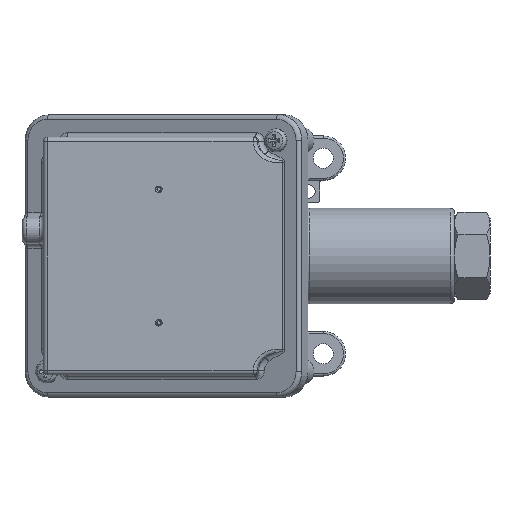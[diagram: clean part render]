
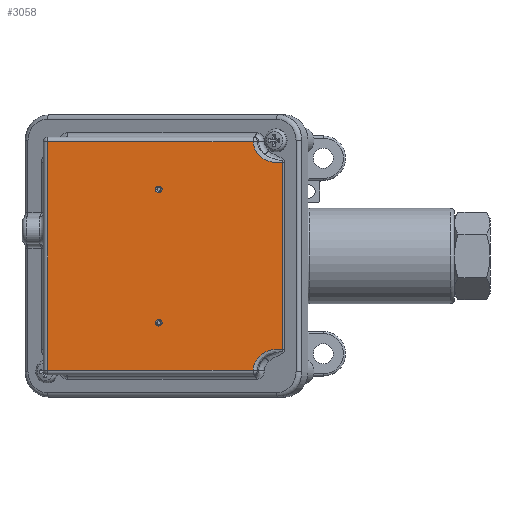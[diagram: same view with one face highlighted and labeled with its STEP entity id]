
A CAD part, left-side view. The second image highlights one B-rep face of the part: STEP entity #3058.
In plain terms, the highlighted planar face has unit normal (-1, 0.005, 0).
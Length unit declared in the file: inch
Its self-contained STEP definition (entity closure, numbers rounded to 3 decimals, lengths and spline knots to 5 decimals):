
#53 = CARTESIAN_POINT ( 'NONE',  ( -2.32276, 0.19397, -1.32146 ) ) ;
#177 = EDGE_LOOP ( 'NONE', ( #181 ) ) ;
#181 = ORIENTED_EDGE ( 'NONE', *, *, #470, .F. ) ;
#206 = ORIENTED_EDGE ( 'NONE', *, *, #7942, .T. ) ;
#233 = CARTESIAN_POINT ( 'NONE',  ( -2.32057, 0.61286, 1.61 ) ) ;
#389 = CARTESIAN_POINT ( 'NONE',  ( -2.32276, 0.19397, -1.32146 ) ) ;
#395 = CARTESIAN_POINT ( 'NONE',  ( -2.32282, 0.18143, 1.61 ) ) ;
#400 = AXIS2_PLACEMENT_3D ( 'NONE', #7304, #4928, #4224 ) ;
#421 = VERTEX_POINT ( 'NONE', #53 ) ;
#470 = EDGE_CURVE ( 'NONE', #3485, #3485, #531, .T. ) ;
#531 = CIRCLE ( 'NONE', #400, 0.0465 ) ;
#968 = CARTESIAN_POINT ( 'NONE',  ( -2.32276, 0.19397, 1.6725 ) ) ;
#999 = DIRECTION ( 'NONE',  ( -0.005, -1., 0. ) ) ;
#1028 = DIRECTION ( 'NONE',  ( -1., 0.005, 0. ) ) ;
#1033 = CARTESIAN_POINT ( 'NONE',  ( -2.32159, 0.41746, -1.27099 ) ) ;
#1078 = ORIENTED_EDGE ( 'NONE', *, *, #7199, .T. ) ;
#1175 = VECTOR ( 'NONE', #3472, 39.37008 ) ;
#1369 = VERTEX_POINT ( 'NONE', #7579 ) ;
#1377 = ORIENTED_EDGE ( 'NONE', *, *, #5631, .T. ) ;
#1580 = CARTESIAN_POINT ( 'NONE',  ( -2.32063, 0.60182, -1.39798 ) ) ;
#1942 = CARTESIAN_POINT ( 'NONE',  ( -2.31389, 1.8919, 0.937 ) ) ;
#2568 = VERTEX_POINT ( 'NONE', #5200 ) ;
#2780 = CARTESIAN_POINT ( 'NONE',  ( -2.32057, 0.61286, -1.61 ) ) ;
#2795 = FACE_BOUND ( 'NONE', #177, .T. ) ;
#2948 = VERTEX_POINT ( 'NONE', #7462 ) ;
#3058 = ADVANCED_FACE ( 'NONE', ( #7179, #2795, #7697 ), #7664, .F. ) ;
#3220 =( BOUNDED_CURVE ( )  B_SPLINE_CURVE ( 3, ( #5806, #4098, #4023, #5968 ),
 .UNSPECIFIED., .F., .T. ) 
 B_SPLINE_CURVE_WITH_KNOTS ( ( 4, 4 ),
 ( 1.33072, 3.09357 ),
 .UNSPECIFIED. ) 
 CURVE ( )  GEOMETRIC_REPRESENTATION_ITEM ( )  RATIONAL_B_SPLINE_CURVE ( ( 1., 0.757, 0.757, 1. ) ) 
 REPRESENTATION_ITEM ( '' )  );
#3305 = DIRECTION ( 'NONE',  ( 0.005, 1., 0. ) ) ;
#3383 = VECTOR ( 'NONE', #7167, 39.37008 ) ;
#3440 = VERTEX_POINT ( 'NONE', #233 ) ;
#3472 = DIRECTION ( 'NONE',  ( 0., 0., -1. ) ) ;
#3485 = VERTEX_POINT ( 'NONE', #7208 ) ;
#3486 = VECTOR ( 'NONE', #4786, 39.37008 ) ;
#3498 = EDGE_CURVE ( 'NONE', #5596, #5596, #4431, .T. ) ;
#3716 = EDGE_LOOP ( 'NONE', ( #4267, #5846, #1078, #6508, #1377, #206 ) ) ;
#3970 = DIRECTION ( 'NONE',  ( 1., -0.005, 0. ) ) ;
#4023 = CARTESIAN_POINT ( 'NONE',  ( -2.32063, 0.60182, 1.39798 ) ) ;
#4098 = CARTESIAN_POINT ( 'NONE',  ( -2.32159, 0.41746, 1.27099 ) ) ;
#4224 = DIRECTION ( 'NONE',  ( -0.005, -1., 0. ) ) ;
#4267 = ORIENTED_EDGE ( 'NONE', *, *, #5252, .T. ) ;
#4389 = VECTOR ( 'NONE', #4467, 39.37008 ) ;
#4431 = CIRCLE ( 'NONE', #6372, 0.0465 ) ;
#4467 = DIRECTION ( 'NONE',  ( -0.005, -1., 0. ) ) ;
#4609 = LINE ( 'NONE', #7834, #1175 ) ;
#4726 = CARTESIAN_POINT ( 'NONE',  ( -2.31365, 1.9384, 0.937 ) ) ;
#4786 = DIRECTION ( 'NONE',  ( 0.005, 1., 0. ) ) ;
#4928 = DIRECTION ( 'NONE',  ( -1., 0.005, 0. ) ) ;
#5157 = CARTESIAN_POINT ( 'NONE',  ( -2.32282, 0.18143, 1.6725 ) ) ;
#5200 = CARTESIAN_POINT ( 'NONE',  ( -2.3055, 3.50088, 1.61 ) ) ;
#5252 = EDGE_CURVE ( 'NONE', #2568, #2948, #4609, .T. ) ;
#5271 = EDGE_LOOP ( 'NONE', ( #5602 ) ) ;
#5415 = CARTESIAN_POINT ( 'NONE',  ( -2.32276, 0.19397, 1.32146 ) ) ;
#5596 = VERTEX_POINT ( 'NONE', #1942 ) ;
#5602 = ORIENTED_EDGE ( 'NONE', *, *, #3498, .F. ) ;
#5631 = EDGE_CURVE ( 'NONE', #7336, #3440, #3220, .T. ) ;
#5806 = CARTESIAN_POINT ( 'NONE',  ( -2.32276, 0.19397, 1.32146 ) ) ;
#5846 = ORIENTED_EDGE ( 'NONE', *, *, #6221, .T. ) ;
#5951 = LINE ( 'NONE', #395, #3486 ) ;
#5968 = CARTESIAN_POINT ( 'NONE',  ( -2.32057, 0.61286, 1.61 ) ) ;
#6221 = EDGE_CURVE ( 'NONE', #2948, #1369, #7698, .T. ) ;
#6372 = AXIS2_PLACEMENT_3D ( 'NONE', #4726, #1028, #999 ) ;
#6508 = ORIENTED_EDGE ( 'NONE', *, *, #7205, .T. ) ;
#6873 = AXIS2_PLACEMENT_3D ( 'NONE', #5157, #3970, #3305 ) ;
#7167 = DIRECTION ( 'NONE',  ( 0., 0., 1. ) ) ;
#7179 = FACE_BOUND ( 'NONE', #5271, .T. ) ;
#7199 = EDGE_CURVE ( 'NONE', #1369, #421, #7388, .T. ) ;
#7205 = EDGE_CURVE ( 'NONE', #421, #7336, #7687, .T. ) ;
#7208 = CARTESIAN_POINT ( 'NONE',  ( -2.31389, 1.8919, -0.938 ) ) ;
#7304 = CARTESIAN_POINT ( 'NONE',  ( -2.31365, 1.9384, -0.938 ) ) ;
#7336 = VERTEX_POINT ( 'NONE', #5415 ) ;
#7388 =( BOUNDED_CURVE ( )  B_SPLINE_CURVE ( 3, ( #2780, #1580, #1033, #389 ),
 .UNSPECIFIED., .F., .T. ) 
 B_SPLINE_CURVE_WITH_KNOTS ( ( 4, 4 ),
 ( 3.18961, 4.95247 ),
 .UNSPECIFIED. ) 
 CURVE ( )  GEOMETRIC_REPRESENTATION_ITEM ( )  RATIONAL_B_SPLINE_CURVE ( ( 1., 0.757, 0.757, 1. ) ) 
 REPRESENTATION_ITEM ( '' )  );
#7462 = CARTESIAN_POINT ( 'NONE',  ( -2.3055, 3.50088, -1.61 ) ) ;
#7549 = CARTESIAN_POINT ( 'NONE',  ( -2.32081, 0.56672, -1.61 ) ) ;
#7579 = CARTESIAN_POINT ( 'NONE',  ( -2.32057, 0.61286, -1.61 ) ) ;
#7664 = PLANE ( 'NONE',  #6873 ) ;
#7687 = LINE ( 'NONE', #968, #3383 ) ;
#7697 = FACE_OUTER_BOUND ( 'NONE', #3716, .T. ) ;
#7698 = LINE ( 'NONE', #7549, #4389 ) ;
#7834 = CARTESIAN_POINT ( 'NONE',  ( -2.3055, 3.50088, 1.6725 ) ) ;
#7942 = EDGE_CURVE ( 'NONE', #3440, #2568, #5951, .T. ) ;
